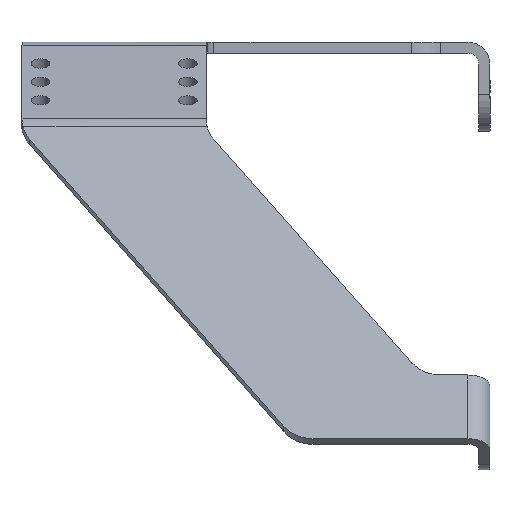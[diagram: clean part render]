
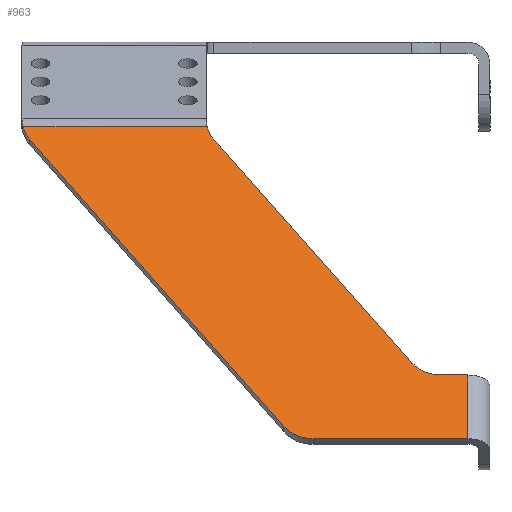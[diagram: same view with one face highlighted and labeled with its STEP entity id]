
A CAD part, left-side view. The second image highlights one B-rep face of the part: STEP entity #963.
In plain terms, the highlighted planar face has unit normal (-0.866, 0, 0.5).
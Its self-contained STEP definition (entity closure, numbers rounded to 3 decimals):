
#66=CIRCLE('',#1065,20.);
#67=CIRCLE('',#1066,20.);
#68=CIRCLE('',#1067,20.);
#69=CIRCLE('',#1068,20.);
#95=PLANE('',#1064);
#163=FACE_OUTER_BOUND('',#227,.T.);
#227=EDGE_LOOP('',(#835,#836,#837,#838,#839,#840,#841,#842,#843,#844));
#251=LINE('',#1741,#331);
#300=LINE('',#2261,#380);
#301=LINE('',#2265,#381);
#302=LINE('',#2267,#382);
#303=LINE('',#2269,#383);
#304=LINE('',#2273,#384);
#331=VECTOR('',#1107,10.);
#380=VECTOR('',#1288,10.);
#381=VECTOR('',#1291,10.);
#382=VECTOR('',#1292,10.);
#383=VECTOR('',#1293,10.);
#384=VECTOR('',#1296,10.);
#413=VERTEX_POINT('',#1536);
#419=VERTEX_POINT('',#1719);
#478=VERTEX_POINT('',#2258);
#479=VERTEX_POINT('',#2260);
#480=VERTEX_POINT('',#2262);
#481=VERTEX_POINT('',#2264);
#482=VERTEX_POINT('',#2266);
#483=VERTEX_POINT('',#2268);
#484=VERTEX_POINT('',#2270);
#485=VERTEX_POINT('',#2272);
#515=EDGE_CURVE('',#413,#419,#251,.T.);
#603=EDGE_CURVE('',#478,#419,#66,.T.);
#604=EDGE_CURVE('',#479,#478,#300,.T.);
#605=EDGE_CURVE('',#480,#479,#67,.T.);
#606=EDGE_CURVE('',#481,#480,#301,.T.);
#607=EDGE_CURVE('',#481,#482,#302,.T.);
#608=EDGE_CURVE('',#483,#482,#303,.T.);
#609=EDGE_CURVE('',#484,#483,#68,.T.);
#610=EDGE_CURVE('',#485,#484,#304,.T.);
#611=EDGE_CURVE('',#413,#485,#69,.T.);
#835=ORIENTED_EDGE('',*,*,#515,.T.);
#836=ORIENTED_EDGE('',*,*,#603,.F.);
#837=ORIENTED_EDGE('',*,*,#604,.F.);
#838=ORIENTED_EDGE('',*,*,#605,.F.);
#839=ORIENTED_EDGE('',*,*,#606,.F.);
#840=ORIENTED_EDGE('',*,*,#607,.T.);
#841=ORIENTED_EDGE('',*,*,#608,.F.);
#842=ORIENTED_EDGE('',*,*,#609,.F.);
#843=ORIENTED_EDGE('',*,*,#610,.F.);
#844=ORIENTED_EDGE('',*,*,#611,.F.);
#963=ADVANCED_FACE('',(#163),#95,.T.);
#1064=AXIS2_PLACEMENT_3D('',#2257,#1284,#1285);
#1065=AXIS2_PLACEMENT_3D('',#2259,#1286,#1287);
#1066=AXIS2_PLACEMENT_3D('',#2263,#1289,#1290);
#1067=AXIS2_PLACEMENT_3D('',#2271,#1294,#1295);
#1068=AXIS2_PLACEMENT_3D('',#2274,#1297,#1298);
#1107=DIRECTION('',(0.,1.,0.));
#1284=DIRECTION('center_axis',(-0.866,0.,0.5));
#1285=DIRECTION('ref_axis',(0.5,0.,0.866));
#1286=DIRECTION('center_axis',(0.866,0.,-0.5));
#1287=DIRECTION('ref_axis',(0.,1.,0.));
#1288=DIRECTION('',(0.397,0.608,0.687));
#1289=DIRECTION('center_axis',(0.866,0.,-0.5));
#1290=DIRECTION('ref_axis',(-0.304,0.794,-0.527));
#1291=DIRECTION('',(0.,1.,0.));
#1292=DIRECTION('',(0.5,0.,0.866));
#1293=DIRECTION('',(0.,-1.,0.));
#1294=DIRECTION('center_axis',(-0.866,0.,0.5));
#1295=DIRECTION('ref_axis',(0.304,-0.794,0.527));
#1296=DIRECTION('',(-0.397,-0.608,-0.687));
#1297=DIRECTION('center_axis',(-0.866,0.,0.5));
#1298=DIRECTION('ref_axis',(0.,-1.,0.));
#1536=CARTESIAN_POINT('',(-35.15,45.482,-42.5));
#1719=CARTESIAN_POINT('',(-35.15,145.482,-42.5));
#1741=CARTESIAN_POINT('',(-35.15,24.047,-42.5));
#2257=CARTESIAN_POINT('Origin',(-12.888,2.612,-3.941));
#2258=CARTESIAN_POINT('',(-38.973,141.872,-49.121));
#2259=CARTESIAN_POINT('Origin',(-32.888,126.,-38.582));
#2260=CARTESIAN_POINT('',(-128.973,3.872,-205.005));
#2261=CARTESIAN_POINT('',(-38.973,141.872,-49.121));
#2262=CARTESIAN_POINT('',(-132.888,-12.,-211.787));
#2263=CARTESIAN_POINT('Origin',(-122.888,-12.,-194.467));
#2264=CARTESIAN_POINT('',(-132.888,-96.,-211.787));
#2265=CARTESIAN_POINT('',(-132.888,-12.,-211.787));
#2266=CARTESIAN_POINT('',(-112.888,-96.,-177.146));
#2267=CARTESIAN_POINT('',(-62.888,-96.,-90.544));
#2268=CARTESIAN_POINT('',(-112.888,-81.333,-177.146));
#2269=CARTESIAN_POINT('',(-112.888,-126.,-177.146));
#2270=CARTESIAN_POINT('',(-108.973,-65.461,-170.364));
#2271=CARTESIAN_POINT('Origin',(-102.888,-81.333,-159.826));
#2272=CARTESIAN_POINT('',(-38.973,41.872,-49.121));
#2273=CARTESIAN_POINT('',(-108.973,-65.461,-170.364));
#2274=CARTESIAN_POINT('Origin',(-32.888,26.,-38.582));
